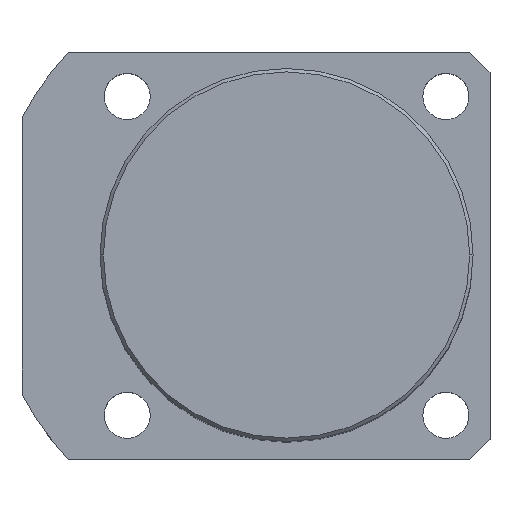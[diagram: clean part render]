
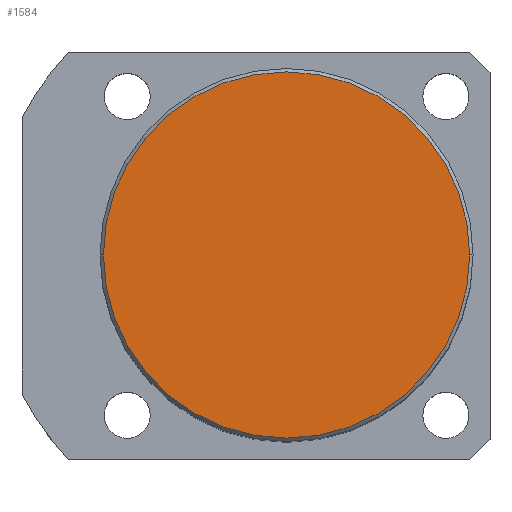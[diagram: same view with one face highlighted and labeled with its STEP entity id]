
A CAD part, top view. The second image highlights one B-rep face of the part: STEP entity #1584.
In plain terms, the highlighted planar face has unit normal (0, 0, 1).
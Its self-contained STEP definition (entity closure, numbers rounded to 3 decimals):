
#51 = FACE_OUTER_BOUND ( 'NONE', #1664, .T. ) ;
#159 = PLANE ( 'NONE',  #1759 ) ;
#193 = DIRECTION ( 'NONE',  ( 0., 0., 1. ) ) ;
#202 = CARTESIAN_POINT ( 'NONE',  ( -27., 0., 85. ) ) ;
#248 = CIRCLE ( 'NONE', #1639, 27. ) ;
#450 = CARTESIAN_POINT ( 'NONE',  ( 0., 0., 85. ) ) ;
#461 = AXIS2_PLACEMENT_3D ( 'NONE', #1563, #1436, #1708 ) ;
#483 = EDGE_CURVE ( 'NONE', #577, #1098, #1268, .T. ) ;
#577 = VERTEX_POINT ( 'NONE', #1295 ) ;
#674 = ORIENTED_EDGE ( 'NONE', *, *, #1089, .T. ) ;
#736 = ORIENTED_EDGE ( 'NONE', *, *, #483, .T. ) ;
#875 = DIRECTION ( 'NONE',  ( 1., 0., 0. ) ) ;
#1089 = EDGE_CURVE ( 'NONE', #1098, #577, #248, .T. ) ;
#1098 = VERTEX_POINT ( 'NONE', #202 ) ;
#1268 = CIRCLE ( 'NONE', #461, 27. ) ;
#1295 = CARTESIAN_POINT ( 'NONE',  ( 27., 0., 85. ) ) ;
#1432 = DIRECTION ( 'NONE',  ( 1., 0., 0. ) ) ;
#1436 = DIRECTION ( 'NONE',  ( 0., 0., 1. ) ) ;
#1555 = DIRECTION ( 'NONE',  ( 0., 0., 1. ) ) ;
#1563 = CARTESIAN_POINT ( 'NONE',  ( 0., 0., 85. ) ) ;
#1584 = ADVANCED_FACE ( 'NONE', ( #51 ), #159, .T. ) ;
#1639 = AXIS2_PLACEMENT_3D ( 'NONE', #1711, #193, #1432 ) ;
#1664 = EDGE_LOOP ( 'NONE', ( #674, #736 ) ) ;
#1708 = DIRECTION ( 'NONE',  ( 1., 0., 0. ) ) ;
#1711 = CARTESIAN_POINT ( 'NONE',  ( 0., 0., 85. ) ) ;
#1759 = AXIS2_PLACEMENT_3D ( 'NONE', #450, #1555, #875 ) ;
